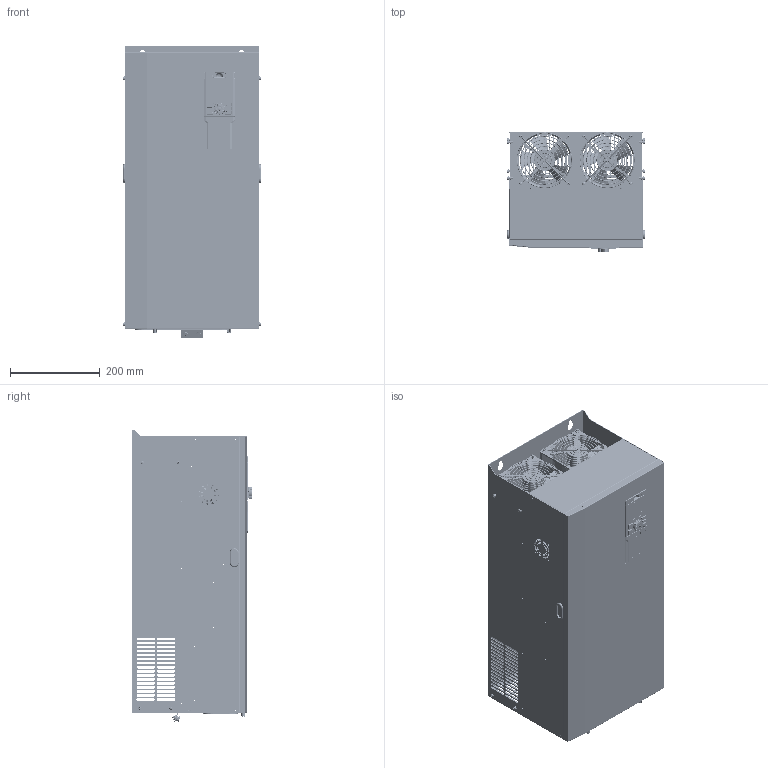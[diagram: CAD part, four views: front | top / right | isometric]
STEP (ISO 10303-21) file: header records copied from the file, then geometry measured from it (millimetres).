
FILE_DESCRIPTION((''),'2;1');
FILE_NAME('00-A8-90_ASM_132_ASM','2024-08-14T',('Administrator'),(''),'PRO/ENGINEER BY PARAMETRIC TECHNOLOGY CORPORATION, 2010280','PRO/ENGINEER BY PARAMETRIC TECHNOLOGY CORPORATION, 2010280','');
FILE_SCHEMA(('AUTOMOTIVE_DESIGN { 1 0 10303 214 1 1 1 1 }'));
Products named in the file (122): A8-90-01-01-01_67; TPS-3-10-ZC_27; TPS-4-10-ZC_27; A8-90-01-01-01_ASM_66_ASM; A8-90-01-01-02_93; S-M4-ZC_35; S-M8-ZC_35; BSO-M3-16-ZC_34; BSO-M3-14-ZC_34; A8-90-01-01-02_ASM_89_ASM; A8-90-01-01-03_44; A8-90-01-01-03_ASM_51_ASM; A8-90-01-01-04_39; A8-90-01-01-04_ASM_46_ASM; A8-90-01-01-05_24; A8-90-01-01-05_ASM_27_ASM; A8-90-01-01-06_14; A8-90-01-01-06_ASM_14_ASM; GB12617-90_4X8_30-R0_10_23; A8-90-01-01_ASM_101_ASM; A8-90-01-02_44; S-M6-ZC_35; A8-90-01-02_ASM_51_ASM; A8-90-01-03_43; TPS-4-8-ZC_27; A8-90-01-03_ASM_51_ASM; A8-90-01-04_47; A8-90-01-04_ASM_50_ASM; A8-90-01-05_67; S-M3-ZC_35; A8-90-01-05_ASM_74_ASM; A8-90-01-07_28; A8-90-01-07_ASM_32_ASM; A8-37-01-05_ASM_13; A8-55-01-02_7; A8-55-01-02_ASM_8_ASM; A8-90-01_ASM_108_ASM; 12038_8_28; MANIFOLD_SOLID_BREP_217637; MANIFOLD_SOLID_BREP_217774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
Assembly tree (281 placements, depth 6):
  00-A8-90_ASM_132_ASM
    A8-90-01_ASM_108_ASM
      A8-90-01-01_ASM_101_ASM
        A8-90-01-01-01_ASM_66_ASM
          A8-90-01-01-01_67
          TPS-3-10-ZC_27  x2
          TPS-4-10-ZC_27  x2
        A8-90-01-01-02_ASM_89_ASM
          A8-90-01-01-02_93
          TPS-3-10-ZC_27  x2
          S-M4-ZC_35  x2
          S-M8-ZC_35  x4
          BSO-M3-16-ZC_34  x8
          BSO-M3-14-ZC_34  x12
        A8-90-01-01-03_ASM_51_ASM  x2
          A8-90-01-01-03_44
          S-M4-ZC_35
        A8-90-01-01-04_ASM_46_ASM
          A8-90-01-01-04_39
          S-M4-ZC_35  x3
        A8-90-01-01-05_ASM_27_ASM  x2
          A8-90-01-01-05_24
          S-M4-ZC_35
        A8-90-01-01-06_ASM_14_ASM
          A8-90-01-01-06_14
          S-M4-ZC_35  x3
        GB12617-90_4X8_30-R0_10_23  x32
      A8-90-01-02_ASM_51_ASM
        A8-90-01-02_44
        S-M4-ZC_35  x5
        S-M6-ZC_35  x2
      A8-90-01-03_ASM_51_ASM
        A8-90-01-03_43
        TPS-4-8-ZC_27  x2
      A8-90-01-04_ASM_50_ASM
        A8-90-01-04_47
        S-M4-ZC_35  x8
      A8-90-01-05_ASM_74_ASM
        A8-90-01-05_67
        S-M3-ZC_35  x8
      A8-90-01-07_ASM_32_ASM
        A8-90-01-07_28
        S-M4-ZC_35  x12
      A8-37-01-05_ASM_13
      A8-55-01-02_ASM_8_ASM
        A8-55-01-02_7
        S-M4-ZC_35  x12
    A8-90-QJ_ASM_60_ASM
      12038_8_28  x2
      119_NET_8_28_ASM  x2
        MANIFOLD_SOLID_BREP_217637
        MANIFOLD_SOLID_BREP_217774
        MANIFOLD_SOLID_BREP_217911
        MANIFOLD_SOLID_BREP_218048
        MANIFOLD_SOLID_BREP_218185
        MANIFOLD_SOLID_BREP_219184
        MANIFOLD_SOLID_BREP_220183
        MANIFOLD_SOLID_BREP_220320
        MANIFOLD_SOLID_BREP_220457
        MANIFOLD_SOLID_BREP_220594
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Bounding box: 309.61 x 269.3 x 649.79 mm (x, y, z)
Volume: 2599918 mm3; surface area: 3123696.8 mm2
Topology: 300 solids, 312 shells, 35447 faces, 99920 edges, 67976 vertices
Faces by surface type: plane 30043, cylinder 3704, cone 1091, torus 340, bspline 189, sphere 80
Entity records: 538413 total; most frequent: CARTESIAN_POINT 90127, ORIENTED_EDGE 71358, DIRECTION 69684, EDGE_CURVE 35706, VECTOR 30040, LINE 30040, VERTEX_POINT 23501, PRESENTATION_STYLE_ASSIGNMENT 22854
